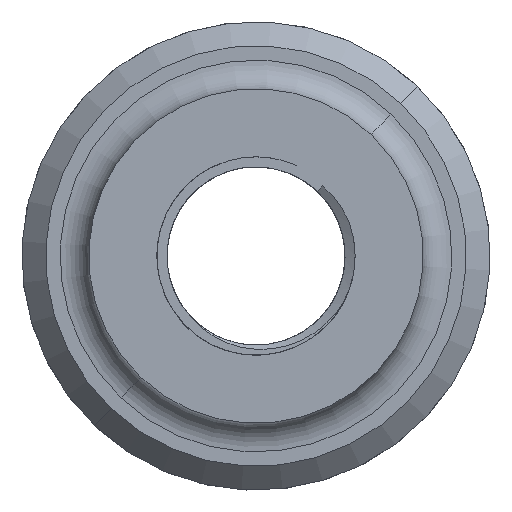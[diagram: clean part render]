
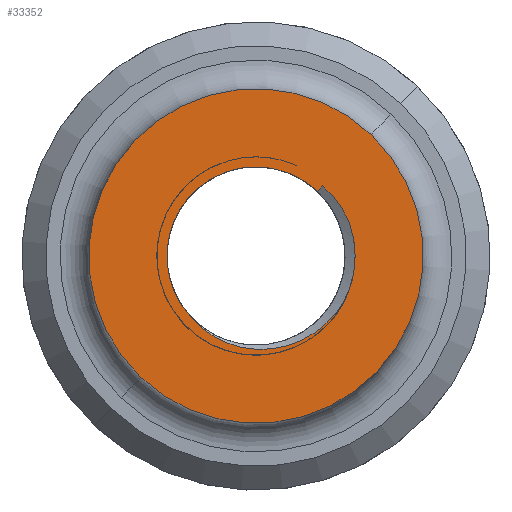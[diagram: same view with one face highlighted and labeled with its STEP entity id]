
A CAD part, front view. The second image highlights one B-rep face of the part: STEP entity #33352.
In plain terms, the highlighted planar face has unit normal (0, -1, 0).
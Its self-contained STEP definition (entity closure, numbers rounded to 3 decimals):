
#526 = CARTESIAN_POINT ( 'NONE',  ( 106.072, -1.776, 249.596 ) ) ;
#550 = CARTESIAN_POINT ( 'NONE',  ( 113.802, -1.776, 257.339 ) ) ;
#1116 = CARTESIAN_POINT ( 'NONE',  ( 108.356, -1.776, 250.359 ) ) ;
#1200 = ORIENTED_EDGE ( 'NONE', *, *, #70863, .T. ) ;
#1474 = AXIS2_PLACEMENT_3D ( 'NONE', #87401, #116051, #12876 ) ;
#1677 = VERTEX_POINT ( 'NONE', #47526 ) ;
#2915 = B_SPLINE_CURVE_WITH_KNOTS ( 'NONE', 3,
 ( #41667, #30778, #96237, #13133, #85877, #105379, #59291, #50133 ),
 .UNSPECIFIED., .F., .F.,
 ( 4, 2, 2, 4 ),
 ( 0., 0.002, 0.004, 0.005 ),
 .UNSPECIFIED. ) ;
#7518 = EDGE_CURVE ( 'NONE', #58711, #86279, #25609, .T. ) ;
#7847 = CARTESIAN_POINT ( 'NONE',  ( 103.659, -1.776, 249.386 ) ) ;
#8452 = CARTESIAN_POINT ( 'NONE',  ( 99.783, -1.776, 250.416 ) ) ;
#9031 = AXIS2_PLACEMENT_3D ( 'NONE', #54555, #64840, #82983 ) ;
#9974 = CARTESIAN_POINT ( 'NONE',  ( 96.664, -1.776, 252.936 ) ) ;
#10250 = CARTESIAN_POINT ( 'NONE',  ( 110.401, -1.776, 251.653 ) ) ;
#12876 = DIRECTION ( 'NONE',  ( -0.725, 0., 0.688 ) ) ;
#13133 = CARTESIAN_POINT ( 'NONE',  ( 112.391, -1.776, 264.46 ) ) ;
#17617 = CARTESIAN_POINT ( 'NONE',  ( 112.953, -1.776, 254.761 ) ) ;
#18663 = B_SPLINE_CURVE_WITH_KNOTS ( 'NONE', 3,
 ( #19393, #37610, #92708, #36413, #550, #55161, #27898, #17617 ),
 .UNSPECIFIED., .F., .F.,
 ( 4, 2, 2, 4 ),
 ( 0., 0.004, 0.006, 0.008 ),
 .UNSPECIFIED. ) ;
#18787 = CARTESIAN_POINT ( 'NONE',  ( 100.892, -1.776, 249.945 ) ) ;
#19393 = CARTESIAN_POINT ( 'NONE',  ( 113.329, -1.776, 262.708 ) ) ;
#23941 = CARTESIAN_POINT ( 'NONE',  ( 103.572, -1.776, 259.186 ) ) ;
#24456 = DIRECTION ( 'NONE',  ( -0.725, 0., 0.688 ) ) ;
#25609 = CIRCLE ( 'NONE', #95234, 17.5 ) ;
#26738 = CIRCLE ( 'NONE', #38331, 9.316 ) ;
#27263 = CARTESIAN_POINT ( 'NONE',  ( 102.458, -1.776, 249.54 ) ) ;
#27875 = CARTESIAN_POINT ( 'NONE',  ( 102.056, -1.776, 249.617 ) ) ;
#27898 = CARTESIAN_POINT ( 'NONE',  ( 113.244, -1.776, 255.377 ) ) ;
#30778 = CARTESIAN_POINT ( 'NONE',  ( 111.147, -1.776, 266.008 ) ) ;
#33352 = ADVANCED_FACE ( 'NONE', ( #101010, #52551 ), #80413, .T. ) ;
#35261 = EDGE_LOOP ( 'NONE', ( #57010, #60567 ) ) ;
#35804 = CARTESIAN_POINT ( 'NONE',  ( 107.988, -1.776, 250.193 ) ) ;
#36393 = CARTESIAN_POINT ( 'NONE',  ( 111.293, -1.776, 252.47 ) ) ;
#36413 = CARTESIAN_POINT ( 'NONE',  ( 113.901, -1.776, 258.016 ) ) ;
#37475 = EDGE_CURVE ( 'NONE', #51464, #1677, #2915, .T. ) ;
#37583 = CARTESIAN_POINT ( 'NONE',  ( 112.953, -1.776, 254.761 ) ) ;
#37610 = CARTESIAN_POINT ( 'NONE',  ( 113.791, -1.776, 261.427 ) ) ;
#38168 = CARTESIAN_POINT ( 'NONE',  ( 106.854, -1.776, 249.788 ) ) ;
#38331 = AXIS2_PLACEMENT_3D ( 'NONE', #109322, #63242, #24456 ) ;
#40119 = ORIENTED_EDGE ( 'NONE', *, *, #37475, .T. ) ;
#41667 = CARTESIAN_POINT ( 'NONE',  ( 110.54, -1.776, 266.527 ) ) ;
#44056 = CARTESIAN_POINT ( 'NONE',  ( 103.572, -1.776, 259.186 ) ) ;
#44932 = ORIENTED_EDGE ( 'NONE', *, *, #48115, .F. ) ;
#45000 = CARTESIAN_POINT ( 'NONE',  ( 103.572, -1.776, 259.186 ) ) ;
#46057 = CARTESIAN_POINT ( 'NONE',  ( 109.422, -1.776, 250.949 ) ) ;
#46634 = CARTESIAN_POINT ( 'NONE',  ( 98.731, -1.776, 251.031 ) ) ;
#47360 = CARTESIAN_POINT ( 'NONE',  ( 110.54, -1.776, 266.527 ) ) ;
#47526 = CARTESIAN_POINT ( 'NONE',  ( 113.329, -1.776, 262.708 ) ) ;
#47657 = EDGE_LOOP ( 'NONE', ( #104306, #1200, #67784, #44932, #114554, #40119 ) ) ;
#48115 = EDGE_CURVE ( 'NONE', #95805, #108884, #26738, .T. ) ;
#48132 = CARTESIAN_POINT ( 'NONE',  ( 109.986, -1.776, 265.942 ) ) ;
#50133 = CARTESIAN_POINT ( 'NONE',  ( 113.329, -1.776, 262.708 ) ) ;
#51464 = VERTEX_POINT ( 'NONE', #47360 ) ;
#51808 = LINE ( 'NONE', #23941, #94206 ) ;
#52551 = FACE_BOUND ( 'NONE', #47657, .T. ) ;
#53979 = CARTESIAN_POINT ( 'NONE',  ( 112.569, -1.776, 254.042 ) ) ;
#54555 = CARTESIAN_POINT ( 'NONE',  ( 103.572, -1.776, 259.186 ) ) ;
#55161 = CARTESIAN_POINT ( 'NONE',  ( 113.472, -1.776, 256.018 ) ) ;
#57010 = ORIENTED_EDGE ( 'NONE', *, *, #7518, .F. ) ;
#58711 = VERTEX_POINT ( 'NONE', #113140 ) ;
#59291 = CARTESIAN_POINT ( 'NONE',  ( 113.174, -1.776, 263.076 ) ) ;
#60567 = ORIENTED_EDGE ( 'NONE', *, *, #70892, .F. ) ;
#63127 = CARTESIAN_POINT ( 'NONE',  ( 107.237, -1.776, 249.908 ) ) ;
#63242 = DIRECTION ( 'NONE',  ( 0., -1., 0. ) ) ;
#63680 = CARTESIAN_POINT ( 'NONE',  ( 112.106, -1.776, 253.38 ) ) ;
#64252 = CARTESIAN_POINT ( 'NONE',  ( 100.146, -1.776, 250.243 ) ) ;
#64840 = DIRECTION ( 'NONE',  ( 0., 1., 0. ) ) ;
#65418 = CARTESIAN_POINT ( 'NONE',  ( 109.076, -1.776, 250.739 ) ) ;
#67784 = ORIENTED_EDGE ( 'NONE', *, *, #99991, .F. ) ;
#68169 = B_SPLINE_CURVE_WITH_KNOTS ( 'NONE', 3,
 ( #37583, #53979, #63680, #36393, #73895, #10250, #84158, #46057, #65418, #1116, #35804, #63127, #38168, #526, #120084, #81837, #7847, #27263, #27875, #110357, #18787, #64252, #8452, #72753, #46634, #109778, #75092, #111545 ),
 .UNSPECIFIED., .F., .F.,
 ( 4, 2, 2, 2, 2, 2, 2, 2, 2, 2, 2, 2, 2, 4 ),
 ( 0., 0.002, 0.004, 0.005, 0.006, 0.007, 0.008, 0.01, 0.012, 0.013, 0.015, 0.016, 0.017, 0.019 ),
 .UNSPECIFIED. ) ;
#70863 = EDGE_CURVE ( 'NONE', #84670, #113029, #68169, .T. ) ;
#70892 = EDGE_CURVE ( 'NONE', #86279, #58711, #109773, .T. ) ;
#71316 = DIRECTION ( 'NONE',  ( 0.688, 0., 0.725 ) ) ;
#72753 = CARTESIAN_POINT ( 'NONE',  ( 99.075, -1.776, 250.81 ) ) ;
#73435 = DIRECTION ( 'NONE',  ( 0., 1., 0. ) ) ;
#73895 = CARTESIAN_POINT ( 'NONE',  ( 111.005, -1.776, 252.184 ) ) ;
#75092 = CARTESIAN_POINT ( 'NONE',  ( 97.176, -1.776, 252.301 ) ) ;
#75131 = CIRCLE ( 'NONE', #1474, 9.316 ) ;
#79843 = EDGE_CURVE ( 'NONE', #1677, #84670, #18663, .T. ) ;
#80413 = PLANE ( 'NONE',  #106887 ) ;
#81837 = CARTESIAN_POINT ( 'NONE',  ( 104.462, -1.776, 249.381 ) ) ;
#82983 = DIRECTION ( 'NONE',  ( -0.688, 0., -0.725 ) ) ;
#84158 = CARTESIAN_POINT ( 'NONE',  ( 110.084, -1.776, 251.405 ) ) ;
#84670 = VERTEX_POINT ( 'NONE', #101420 ) ;
#85877 = CARTESIAN_POINT ( 'NONE',  ( 112.607, -1.776, 264.125 ) ) ;
#86279 = VERTEX_POINT ( 'NONE', #118261 ) ;
#87401 = CARTESIAN_POINT ( 'NONE',  ( 103.572, -1.776, 259.186 ) ) ;
#90079 = DIRECTION ( 'NONE',  ( 0., -1., 0. ) ) ;
#90746 = CARTESIAN_POINT ( 'NONE',  ( 96.816, -1.776, 265.6 ) ) ;
#91602 = DIRECTION ( 'NONE',  ( -0.688, 0., -0.725 ) ) ;
#92708 = CARTESIAN_POINT ( 'NONE',  ( 113.998, -1.776, 260.055 ) ) ;
#94206 = VECTOR ( 'NONE', #97914, 1000. ) ;
#95234 = AXIS2_PLACEMENT_3D ( 'NONE', #45000, #73435, #91602 ) ;
#95805 = VERTEX_POINT ( 'NONE', #48132 ) ;
#96237 = CARTESIAN_POINT ( 'NONE',  ( 111.686, -1.776, 265.426 ) ) ;
#97914 = DIRECTION ( 'NONE',  ( -0.688, 0., -0.725 ) ) ;
#98815 = EDGE_CURVE ( 'NONE', #51464, #95805, #51808, .T. ) ;
#99991 = EDGE_CURVE ( 'NONE', #108884, #113029, #75131, .T. ) ;
#101010 = FACE_OUTER_BOUND ( 'NONE', #35261, .T. ) ;
#101420 = CARTESIAN_POINT ( 'NONE',  ( 112.953, -1.776, 254.761 ) ) ;
#104306 = ORIENTED_EDGE ( 'NONE', *, *, #79843, .T. ) ;
#105379 = CARTESIAN_POINT ( 'NONE',  ( 112.998, -1.776, 263.433 ) ) ;
#106887 = AXIS2_PLACEMENT_3D ( 'NONE', #44056, #90079, #71316 ) ;
#108884 = VERTEX_POINT ( 'NONE', #90746 ) ;
#109322 = CARTESIAN_POINT ( 'NONE',  ( 103.572, -1.776, 259.186 ) ) ;
#109773 = CIRCLE ( 'NONE', #9031, 17.5 ) ;
#109778 = CARTESIAN_POINT ( 'NONE',  ( 97.759, -1.776, 251.748 ) ) ;
#110357 = CARTESIAN_POINT ( 'NONE',  ( 101.273, -1.776, 249.82 ) ) ;
#111545 = CARTESIAN_POINT ( 'NONE',  ( 96.664, -1.776, 252.936 ) ) ;
#113029 = VERTEX_POINT ( 'NONE', #9974 ) ;
#113140 = CARTESIAN_POINT ( 'NONE',  ( 115.621, -1.776, 271.878 ) ) ;
#114554 = ORIENTED_EDGE ( 'NONE', *, *, #98815, .F. ) ;
#116051 = DIRECTION ( 'NONE',  ( 0., -1., 0. ) ) ;
#118261 = CARTESIAN_POINT ( 'NONE',  ( 91.523, -1.776, 246.495 ) ) ;
#120084 = CARTESIAN_POINT ( 'NONE',  ( 105.671, -1.776, 249.524 ) ) ;
